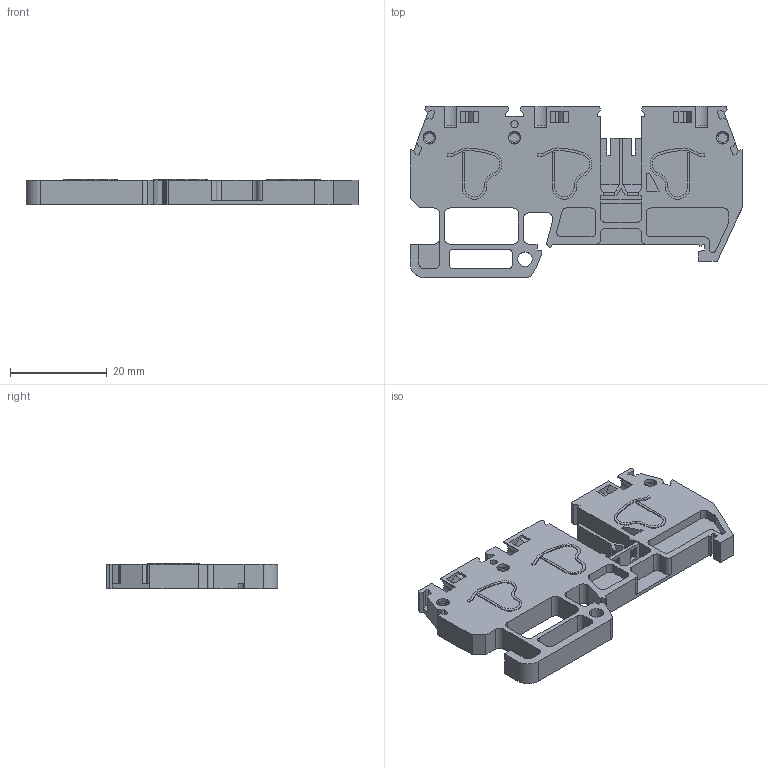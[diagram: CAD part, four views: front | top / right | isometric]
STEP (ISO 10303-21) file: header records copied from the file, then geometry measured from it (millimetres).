
FILE_DESCRIPTION (( 'STEP AP214' ), '1' );
FILE_NAME ('42413_EURO QM1-2 2,5_35.STEP', '2021-03-26T09:52:10', ( '' ), ( '' ), 'SwSTEP 2.0', 'SolidWorks 2020', '' );
FILE_SCHEMA (( 'AUTOMOTIVE_DESIGN' ));
Length unit declared in the file: millimetre
Products named in the file (1): 42413_EURO QM1-2 2,5_35
Bounding box: 68.6 x 35.4 x 5.2 mm (x, y, z)
Volume: 6479 mm3; surface area: 7185.7 mm2
Topology: 1 solids, 1 shells, 466 faces, 1290 edges, 849 vertices
Faces by surface type: plane 319, cylinder 123, bspline 18, cone 6
Entity records: 15375 total; most frequent: CARTESIAN_POINT 3315, ORIENTED_EDGE 2580, DIRECTION 2395, EDGE_CURVE 1290, VECTOR 983, LINE 983, VERTEX_POINT 849, AXIS2_PLACEMENT_3D 706
